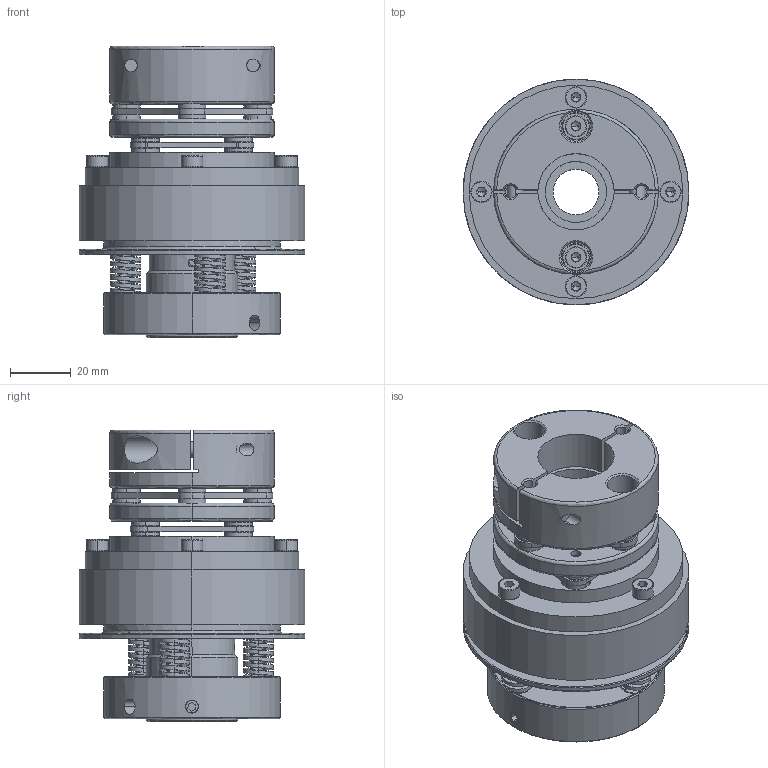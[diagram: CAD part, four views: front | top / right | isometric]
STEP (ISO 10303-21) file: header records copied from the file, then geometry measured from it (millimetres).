
FILE_DESCRIPTION (( 'STEP AP203' ), '1' );
FILE_NAME ('STL25-L-TS1.5-C25-N15.STEP', '2019-05-30T04:06:45', ( '' ), ( '' ), 'SwSTEP 2.0', 'SolidWorks 2015', '' );
FILE_SCHEMA (( 'CONFIG_CONTROL_DESIGN' ));
Length unit declared in the file: millimetre
Products named in the file (1): STL25-L-TS1.5-C25-N15
Bounding box: 74 x 74 x 95.6 mm (x, y, z)
Volume: 193001.7 mm3; surface area: 67070.5 mm2
Topology: 15 solids, 18 shells, 1139 faces, 2796 edges, 1736 vertices
Faces by surface type: cylinder 446, plane 347, cone 152, torus 100, bspline 94
Entity records: 55720 total; most frequent: CARTESIAN_POINT 29091, DIRECTION 5644, ORIENTED_EDGE 5516, EDGE_CURVE 2758, AXIS2_PLACEMENT_3D 2272, VERTEX_POINT 1736, EDGE_LOOP 1288, CIRCLE 1226
